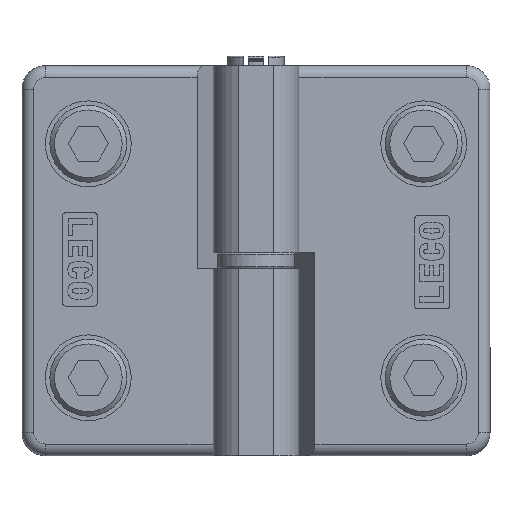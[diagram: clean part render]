
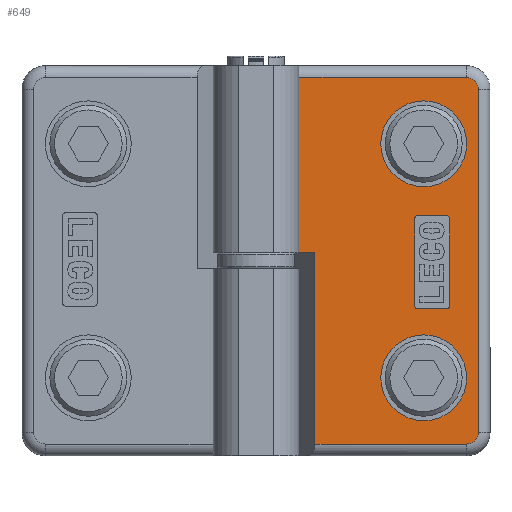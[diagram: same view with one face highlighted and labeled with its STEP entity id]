
A CAD part, front view. The second image highlights one B-rep face of the part: STEP entity #649.
In plain terms, the highlighted planar face has unit normal (0, -1, 0) as drawn and (1, 0, 0) by its records, which use the part's own axes.
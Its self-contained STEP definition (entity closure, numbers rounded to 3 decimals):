
#649=ADVANCED_FACE('',(#1452,#1453,#1454,#1455),#1456,.F.);
#1452=FACE_BOUND('',#2574,.T.);
#1453=FACE_BOUND('',#2575,.T.);
#1454=FACE_BOUND('',#2576,.T.);
#1455=FACE_OUTER_BOUND('',#2577,.T.);
#1456=PLANE('',#2578);
#2574=EDGE_LOOP('',(#3691,#3692,#3693,#3694,#3695,#3696,#3697,#3698));
#2575=EDGE_LOOP('',(#3699));
#2576=EDGE_LOOP('',(#3700));
#2577=EDGE_LOOP('',(#3701,#3702,#3703,#3704,#3705,#3706,#3707,#3708));
#2578=AXIS2_PLACEMENT_3D('',#3709,#3710,#3711);
#3691=ORIENTED_EDGE('',*,*,#6735,.F.);
#3692=ORIENTED_EDGE('',*,*,#6736,.F.);
#3693=ORIENTED_EDGE('',*,*,#6737,.F.);
#3694=ORIENTED_EDGE('',*,*,#6738,.F.);
#3695=ORIENTED_EDGE('',*,*,#6739,.F.);
#3696=ORIENTED_EDGE('',*,*,#6740,.F.);
#3697=ORIENTED_EDGE('',*,*,#6741,.F.);
#3698=ORIENTED_EDGE('',*,*,#6742,.F.);
#3699=ORIENTED_EDGE('',*,*,#6743,.F.);
#3700=ORIENTED_EDGE('',*,*,#6744,.F.);
#3701=ORIENTED_EDGE('',*,*,#6733,.T.);
#3702=ORIENTED_EDGE('',*,*,#6724,.T.);
#3703=ORIENTED_EDGE('',*,*,#6745,.F.);
#3704=ORIENTED_EDGE('',*,*,#6746,.F.);
#3705=ORIENTED_EDGE('',*,*,#6747,.T.);
#3706=ORIENTED_EDGE('',*,*,#6714,.T.);
#3707=ORIENTED_EDGE('',*,*,#6719,.T.);
#3708=ORIENTED_EDGE('',*,*,#6748,.T.);
#3709=CARTESIAN_POINT('',(4.403,-10.692,50.0));
#3710=DIRECTION('',(-1.0,0.0,0.0));
#3711=DIRECTION('',(0.0,0.0,1.0));
#6714=EDGE_CURVE('',#7912,#7910,#7913,.F.);
#6719=EDGE_CURVE('',#7910,#7918,#7920,.F.);
#6724=EDGE_CURVE('',#7922,#7927,#7929,.T.);
#6733=EDGE_CURVE('',#7941,#7922,#7944,.F.);
#6735=EDGE_CURVE('',#7946,#7947,#7948,.T.);
#6736=EDGE_CURVE('',#7949,#7946,#7950,.T.);
#6737=EDGE_CURVE('',#7951,#7949,#7952,.T.);
#6738=EDGE_CURVE('',#7953,#7951,#7954,.T.);
#6739=EDGE_CURVE('',#7955,#7953,#7956,.T.);
#6740=EDGE_CURVE('',#7957,#7955,#7958,.T.);
#6741=EDGE_CURVE('',#7959,#7957,#7960,.T.);
#6742=EDGE_CURVE('',#7947,#7959,#7961,.T.);
#6743=EDGE_CURVE('',#7962,#7962,#7963,.T.);
#6744=EDGE_CURVE('',#7964,#7964,#7965,.T.);
#6745=EDGE_CURVE('',#7966,#7927,#7967,.T.);
#6746=EDGE_CURVE('',#7968,#7966,#7969,.T.);
#6747=EDGE_CURVE('',#7968,#7912,#7970,.T.);
#6748=EDGE_CURVE('',#7918,#7941,#7971,.T.);
#7910=VERTEX_POINT('',#9690);
#7912=VERTEX_POINT('',#9692);
#7913=LINE('',#9693,#9694);
#7918=VERTEX_POINT('',#9700);
#7920=CIRCLE('',#9702,1.5);
#7922=VERTEX_POINT('',#9704);
#7927=VERTEX_POINT('',#9710);
#7929=LINE('',#9712,#9713);
#7941=VERTEX_POINT('',#9729);
#7944=CIRCLE('',#9732,1.5);
#7946=VERTEX_POINT('',#9734);
#7947=VERTEX_POINT('',#9735);
#7948=CIRCLE('',#9736,0.45);
#7949=VERTEX_POINT('',#9737);
#7950=LINE('',#9738,#9739);
#7951=VERTEX_POINT('',#9740);
#7952=CIRCLE('',#9741,0.45);
#7953=VERTEX_POINT('',#9742);
#7954=LINE('',#9743,#9744);
#7955=VERTEX_POINT('',#9745);
#7956=CIRCLE('',#9746,0.45);
#7957=VERTEX_POINT('',#9747);
#7958=LINE('',#9748,#9749);
#7959=VERTEX_POINT('',#9750);
#7960=CIRCLE('',#9751,0.45);
#7961=LINE('',#9752,#9753);
#7962=VERTEX_POINT('',#9754);
#7963=CIRCLE('',#9755,5.5);
#7964=VERTEX_POINT('',#9756);
#7965=CIRCLE('',#9757,5.5);
#7966=VERTEX_POINT('',#9758);
#7967=LINE('',#9759,#9760);
#7968=VERTEX_POINT('',#9761);
#7969=LINE('',#9762,#9763);
#7970=LINE('',#9764,#9765);
#7971=LINE('',#9766,#9767);
#9690=CARTESIAN_POINT('',(4.403,-9.192,48.5));
#9692=CARTESIAN_POINT('',(4.403,10.247,48.5));
#9693=CARTESIAN_POINT('',(4.403,-9.192,48.5));
#9694=VECTOR('',#12269,1.0);
#9700=CARTESIAN_POINT('',(4.403,-10.692,47.0));
#9702=AXIS2_PLACEMENT_3D('',#12277,#12278,#12279);
#9704=CARTESIAN_POINT('',(4.403,-9.192,1.5));
#9710=CARTESIAN_POINT('',(4.403,12.308,1.5));
#9712=CARTESIAN_POINT('',(4.403,-10.692,1.5));
#9713=VECTOR('',#12287,1.0);
#9729=CARTESIAN_POINT('',(4.403,-10.692,3.0));
#9732=AXIS2_PLACEMENT_3D('',#12298,#12299,#12300);
#9734=CARTESIAN_POINT('',(4.403,-6.577,31.182));
#9735=CARTESIAN_POINT('',(4.403,-7.027,30.732));
#9736=AXIS2_PLACEMENT_3D('',#12301,#12302,#12303);
#9737=CARTESIAN_POINT('',(4.403,-2.977,31.182));
#9738=CARTESIAN_POINT('',(4.403,-2.977,31.182));
#9739=VECTOR('',#12304,1.0);
#9740=CARTESIAN_POINT('',(4.403,-2.527,30.732));
#9741=AXIS2_PLACEMENT_3D('',#12305,#12306,#12307);
#9742=CARTESIAN_POINT('',(4.403,-2.527,19.632));
#9743=CARTESIAN_POINT('',(4.403,-2.527,19.632));
#9744=VECTOR('',#12308,1.0);
#9745=CARTESIAN_POINT('',(4.403,-2.977,19.182));
#9746=AXIS2_PLACEMENT_3D('',#12309,#12310,#12311);
#9747=CARTESIAN_POINT('',(4.403,-6.577,19.182));
#9748=CARTESIAN_POINT('',(4.403,-6.577,19.182));
#9749=VECTOR('',#12312,1.0);
#9750=CARTESIAN_POINT('',(4.403,-7.027,19.632));
#9751=AXIS2_PLACEMENT_3D('',#12313,#12314,#12315);
#9752=CARTESIAN_POINT('',(4.403,-7.027,30.732));
#9753=VECTOR('',#12316,1.0);
#9754=CARTESIAN_POINT('',(4.403,-3.692,15.5));
#9755=AXIS2_PLACEMENT_3D('',#12317,#12318,#12319);
#9756=CARTESIAN_POINT('',(4.403,-3.692,45.5));
#9757=AXIS2_PLACEMENT_3D('',#12320,#12321,#12322);
#9758=CARTESIAN_POINT('',(4.403,12.308,24.));
#9759=CARTESIAN_POINT('',(4.403,12.308,50.0));
#9760=VECTOR('',#12323,1.0);
#9761=CARTESIAN_POINT('',(4.403,10.247,24.));
#9762=CARTESIAN_POINT('',(4.403,10.247,24.));
#9763=VECTOR('',#12324,1.0);
#9764=CARTESIAN_POINT('',(4.403,10.247,24.));
#9765=VECTOR('',#12325,1.0);
#9766=CARTESIAN_POINT('',(4.403,-10.692,50.0));
#9767=VECTOR('',#12326,1.0);
#12269=DIRECTION('',(0.0,1.0,0.0));
#12277=CARTESIAN_POINT('',(4.403,-9.192,47.0));
#12278=DIRECTION('',(-1.0,0.0,0.0));
#12279=DIRECTION('',(0.0,0.0,1.0));
#12287=DIRECTION('',(0.0,1.0,0.0));
#12298=CARTESIAN_POINT('',(4.403,-9.192,3.0));
#12299=DIRECTION('',(-1.0,0.0,0.0));
#12300=DIRECTION('',(0.0,0.0,1.0));
#12301=CARTESIAN_POINT('',(4.403,-6.577,30.732));
#12302=DIRECTION('',(1.0,0.0,0.0));
#12303=DIRECTION('',(0.0,0.0,-1.0));
#12304=DIRECTION('',(0.0,-1.0,0.0));
#12305=CARTESIAN_POINT('',(4.403,-2.977,30.732));
#12306=DIRECTION('',(1.0,0.0,0.0));
#12307=DIRECTION('',(0.0,0.0,-1.0));
#12308=DIRECTION('',(0.0,0.0,1.0));
#12309=CARTESIAN_POINT('',(4.403,-2.977,19.632));
#12310=DIRECTION('',(1.0,0.0,0.0));
#12311=DIRECTION('',(0.0,0.0,-1.0));
#12312=DIRECTION('',(0.0,1.0,0.0));
#12313=CARTESIAN_POINT('',(4.403,-6.577,19.632));
#12314=DIRECTION('',(1.0,0.0,0.0));
#12315=DIRECTION('',(0.0,0.0,-1.0));
#12316=DIRECTION('',(0.0,0.,-1.0));
#12317=CARTESIAN_POINT('',(4.403,-3.692,10.0));
#12318=DIRECTION('',(1.0,0.0,0.));
#12319=DIRECTION('',(0.,0.0,1.0));
#12320=CARTESIAN_POINT('',(4.403,-3.692,40.0));
#12321=DIRECTION('',(1.0,0.0,0.));
#12322=DIRECTION('',(0.,0.0,1.0));
#12323=DIRECTION('',(0.0,0.0,-1.0));
#12324=DIRECTION('',(0.0,1.0,0.0));
#12325=DIRECTION('',(0.0,0.0,1.0));
#12326=DIRECTION('',(0.0,0.0,-1.0));
